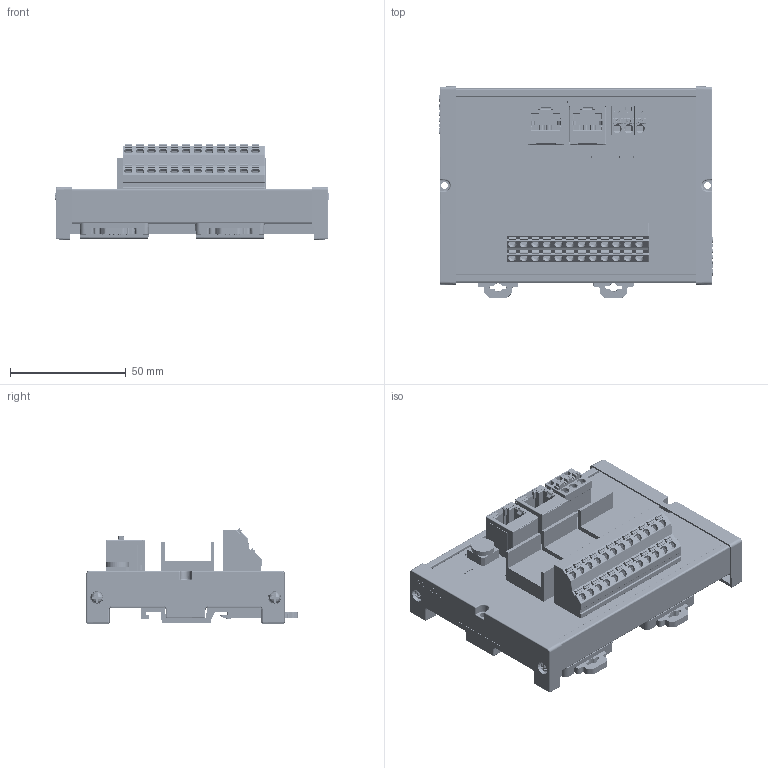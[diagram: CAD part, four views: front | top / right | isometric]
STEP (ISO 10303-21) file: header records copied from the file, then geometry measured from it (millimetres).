
FILE_DESCRIPTION((''),'2;1');
FILE_NAME('AM80-C_1_ASM','2025-09-22T18:42:36',('Administrator'),(''),'CREO PARAMETRIC BY PTC INC, 2022073','CREO PARAMETRIC BY PTC INC, 2022073','');
FILE_SCHEMA(('CONFIG_CONTROL_DESIGN'));
Products named in the file (364): AM80-C_1_5; AM80-C_1_7; AM80-C_1_10; AM80-C_1_8; AM80-C_1_9; AM80-C_1_1; AM80-C_1_2; AM80-C_1_4; AM80-C_1_6; OPEN_CASCADE_STEP_TRANSLATO-774; BOARD_ASM; OPEN_CASCADE_STEP_TRANSLA-11493; OPEN_CASCADE_STEP_TRANSLA-11548; BODY-11538_ASM; LEADER-13818; 8691427152_ASM; U17_ASM; U16_ASM; U15_ASM; U14_ASM; OPEN_CASCADE_STEP_TRANSLA-14544; OPEN_CASCADE_STEP_TRANSLA-14599; BODY-14589_ASM; LEADER-16869; 6196274224_ASM; U13_ASM; U12_ASM; U11_ASM; U10_ASM; U9_ASM; OPEN_CASCADE_STEP_TRANSLA-17639; OPEN_CASCADE_STEP_TRANSLA-17694; BODY-17684_ASM; LEADER-19964; 6196275424_ASM; U5_ASM; R_0603_1; R_0603_2; R_0603_3; R_0603_4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
Assembly tree (650 placements, depth 7):
  AM80-C_1_ASM
    AM80-C_1_5
    AM80-C_1_7
    AM80-C_1_10
    AM80-C_1_8  x2
    AM80-C_1_9  x2
    AM80-C_1_1
    AM80-C_1_2
    AM80-C_1_4
    AM80-C_1_6
    XBF2C_2_D2171_0_2_0001_ASM
      PCB_ASM
        BOARD_ASM
          OPEN_CASCADE_STEP_TRANSLATO-774
        U17_ASM
          8691427152_ASM
            OPEN_CASCADE_STEP_TRANSLA-11493
            BODY-11538_ASM
              OPEN_CASCADE_STEP_TRANSLA-11548
            LEADER-13818  x4
        U16_ASM
          8691427152_ASM
            OPEN_CASCADE_STEP_TRANSLA-11493
            BODY-11538_ASM
              OPEN_CASCADE_STEP_TRANSLA-11548
            LEADER-13818  x4
        U15_ASM
          8691427152_ASM
            OPEN_CASCADE_STEP_TRANSLA-11493
            BODY-11538_ASM
              OPEN_CASCADE_STEP_TRANSLA-11548
            LEADER-13818  x4
        U14_ASM
          8691427152_ASM
            OPEN_CASCADE_STEP_TRANSLA-11493
            BODY-11538_ASM
              OPEN_CASCADE_STEP_TRANSLA-11548
            LEADER-13818  x4
        U13_ASM
          6196274224_ASM
            OPEN_CASCADE_STEP_TRANSLA-14544
            BODY-14589_ASM
              OPEN_CASCADE_STEP_TRANSLA-14599
            LEADER-16869  x4
        U12_ASM
          6196274224_ASM
            OPEN_CASCADE_STEP_TRANSLA-14544
            BODY-14589_ASM
              OPEN_CASCADE_STEP_TRANSLA-14599
            LEADER-16869  x4
        U11_ASM
          6196274224_ASM
            OPEN_CASCADE_STEP_TRANSLA-14544
            BODY-14589_ASM
              OPEN_CASCADE_STEP_TRANSLA-14599
            LEADER-16869  x4
        U10_ASM
          6196274224_ASM
            OPEN_CASCADE_STEP_TRANSLA-14544
            BODY-14589_ASM
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Bounding box: 118.2 x 91.5 x 41.27 mm (x, y, z)
Volume: 108817.8 mm3; surface area: 115475.1 mm2
Topology: 937 solids, 989 shells, 25323 faces, 63698 edges, 40082 vertices
Faces by surface type: plane 15161, cylinder 4395, extrusion 3677, sphere 960, bspline 516, cone 404, torus 210
Entity records: 366098 total; most frequent: CARTESIAN_POINT 150386, ORIENTED_EDGE 44202, DIRECTION 42088, EDGE_CURVE 22137, VECTOR 14624, VERTEX_POINT 14444, LINE 13752, AXIS2_PLACEMENT_3D 13732
